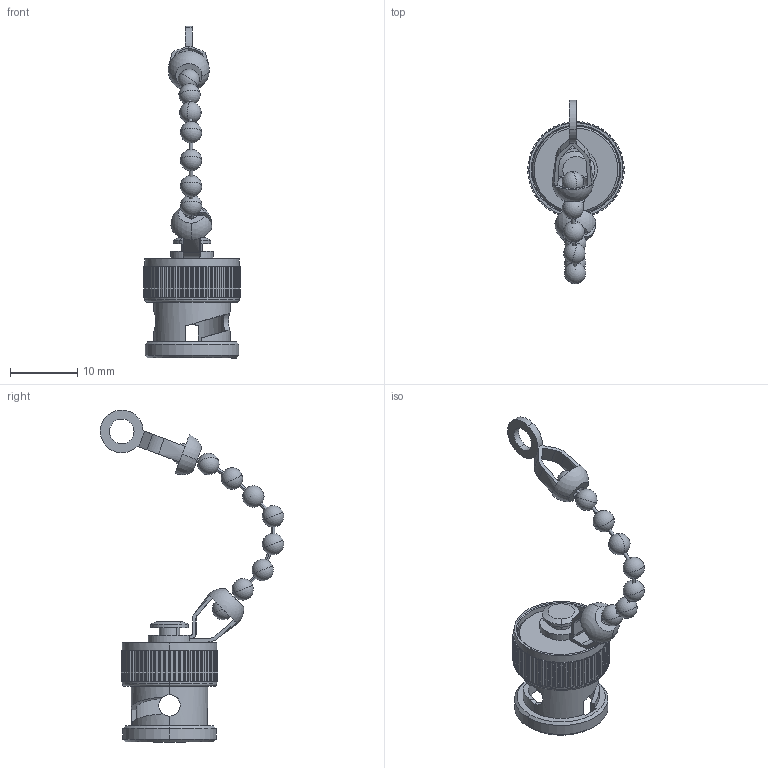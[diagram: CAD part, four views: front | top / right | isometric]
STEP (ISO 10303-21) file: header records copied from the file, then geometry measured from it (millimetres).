
FILE_DESCRIPTION (( 'STEP AP203' ), '1' );
FILE_NAME ('1032000A00E-000.STEP', '2021-05-13T18:03:48', ( '' ), ( '' ), 'SwSTEP 2.0', 'SolidWorks 2019', '' );
FILE_SCHEMA (( 'CONFIG_CONTROL_DESIGN' ));
Length unit declared in the file: inch
Products named in the file (1): 1032000A00E-000
Bounding box: 14.29 x 27.18 x 49.19 mm (x, y, z)
Volume: 1368.4 mm3; surface area: 2908.7 mm2
Topology: 23 solids, 23 shells, 573 faces, 1491 edges, 939 vertices
Faces by surface type: plane 309, cylinder 207, sphere 30, cone 17, bspline 8, torus 2
Entity records: 17714 total; most frequent: CARTESIAN_POINT 3486, DIRECTION 3201, ORIENTED_EDGE 2872, EDGE_CURVE 1436, AXIS2_PLACEMENT_3D 1263, VERTEX_POINT 908, CIRCLE 697, LINE 675
